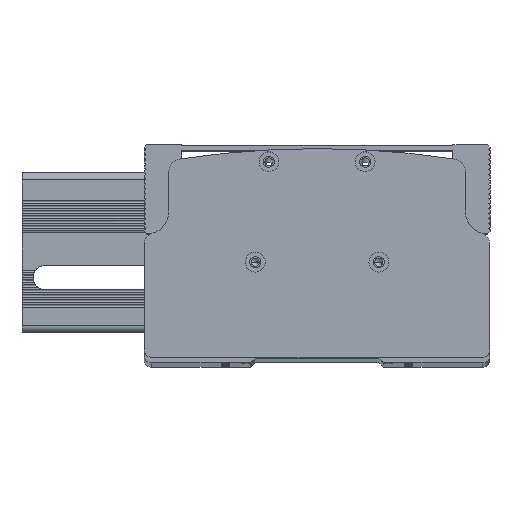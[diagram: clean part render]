
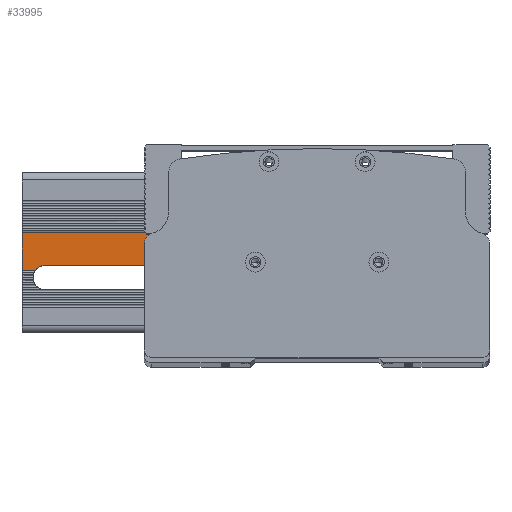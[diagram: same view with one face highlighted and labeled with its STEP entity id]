
A CAD part, top view. The second image highlights one B-rep face of the part: STEP entity #33995.
In plain terms, the highlighted planar face has unit normal (0, 0, 1) as drawn and (-1, 0, 0) by its records, which use the part's own axes.
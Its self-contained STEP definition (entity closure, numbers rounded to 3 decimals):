
#611 = CARTESIAN_POINT ( 'NONE',  ( 0., 0., 87. ) ) ;
#1808 = EDGE_CURVE ( 'NONE', #48000, #39176, #2839, .T. ) ;
#2117 = CARTESIAN_POINT ( 'NONE',  ( 0., 40.5, 0. ) ) ;
#2839 = CIRCLE ( 'NONE', #9409, 5. ) ;
#3187 = VECTOR ( 'NONE', #16591, 1000. ) ;
#3383 = AXIS2_PLACEMENT_3D ( 'NONE', #6001, #34263, #10147 ) ;
#3484 = DIRECTION ( 'NONE',  ( 0., 0., 1. ) ) ;
#3651 = ORIENTED_EDGE ( 'NONE', *, *, #3664, .T. ) ;
#3652 = DIRECTION ( 'NONE',  ( -1., 0., 0. ) ) ;
#3664 = EDGE_CURVE ( 'NONE', #5818, #43540, #16026, .T. ) ;
#3835 = CARTESIAN_POINT ( 'NONE',  ( 0., 22.5, 49.5 ) ) ;
#4082 = ORIENTED_EDGE ( 'NONE', *, *, #42370, .F. ) ;
#4792 = DIRECTION ( 'NONE',  ( 0., 0., 1. ) ) ;
#5818 = VERTEX_POINT ( 'NONE', #2117 ) ;
#5995 = VERTEX_POINT ( 'NONE', #51495 ) ;
#6001 = CARTESIAN_POINT ( 'NONE',  ( 0., 22.5, 9.5 ) ) ;
#6455 = VECTOR ( 'NONE', #15147, 1000. ) ;
#6537 = CARTESIAN_POINT ( 'NONE',  ( 0., 27.5, 49.5 ) ) ;
#8892 = CARTESIAN_POINT ( 'NONE',  ( 0., 25.5, 148. ) ) ;
#9409 = AXIS2_PLACEMENT_3D ( 'NONE', #3835, #3652, #3484 ) ;
#10147 = DIRECTION ( 'NONE',  ( 0., 0., 1. ) ) ;
#11799 = EDGE_CURVE ( 'NONE', #39176, #20066, #46141, .T. ) ;
#12256 = CARTESIAN_POINT ( 'NONE',  ( 0., 0., 87. ) ) ;
#12396 = DIRECTION ( 'NONE',  ( 0., 0., 1. ) ) ;
#12872 = VERTEX_POINT ( 'NONE', #15077 ) ;
#12982 = AXIS2_PLACEMENT_3D ( 'NONE', #611, #45136, #21022 ) ;
#15077 = CARTESIAN_POINT ( 'NONE',  ( 0., 25.5, 5.5 ) ) ;
#15147 = DIRECTION ( 'NONE',  ( 0., -1., 0. ) ) ;
#16026 = LINE ( 'NONE', #39262, #6455 ) ;
#16507 = VERTEX_POINT ( 'NONE', #22703 ) ;
#16591 = DIRECTION ( 'NONE',  ( 0., 0., -1. ) ) ;
#16653 = LINE ( 'NONE', #12256, #24809 ) ;
#19099 = ORIENTED_EDGE ( 'NONE', *, *, #51155, .T. ) ;
#20066 = VERTEX_POINT ( 'NONE', #24518 ) ;
#21022 = DIRECTION ( 'NONE',  ( 0., 0., -1. ) ) ;
#22703 = CARTESIAN_POINT ( 'NONE',  ( 0., 40.5, 87. ) ) ;
#24284 = ORIENTED_EDGE ( 'NONE', *, *, #1808, .F. ) ;
#24518 = CARTESIAN_POINT ( 'NONE',  ( 0., 27.5, 9.5 ) ) ;
#24521 = VECTOR ( 'NONE', #31355, 1000. ) ;
#24809 = VECTOR ( 'NONE', #40608, 1000. ) ;
#25069 = ORIENTED_EDGE ( 'NONE', *, *, #11799, .F. ) ;
#26297 = FACE_OUTER_BOUND ( 'NONE', #48901, .T. ) ;
#27339 = CARTESIAN_POINT ( 'NONE',  ( 0., 40.5, 148. ) ) ;
#28721 = CARTESIAN_POINT ( 'NONE',  ( 0., 27.5, 9.5 ) ) ;
#29824 = EDGE_CURVE ( 'NONE', #43540, #12872, #51191, .T. ) ;
#31355 = DIRECTION ( 'NONE',  ( 0., 0., -1. ) ) ;
#33995 = ADVANCED_FACE ( 'NONE', ( #26297 ), #41081, .F. ) ;
#34263 = DIRECTION ( 'NONE',  ( -1., 0., 0. ) ) ;
#34465 = CARTESIAN_POINT ( 'NONE',  ( 0., 25.5, 53.5 ) ) ;
#34873 = VECTOR ( 'NONE', #12396, 1000. ) ;
#38526 = ORIENTED_EDGE ( 'NONE', *, *, #48878, .T. ) ;
#39176 = VERTEX_POINT ( 'NONE', #6537 ) ;
#39262 = CARTESIAN_POINT ( 'NONE',  ( 0., 0., 0. ) ) ;
#40608 = DIRECTION ( 'NONE',  ( 0., -1., 0. ) ) ;
#41081 = PLANE ( 'NONE',  #12982 ) ;
#41125 = EDGE_CURVE ( 'NONE', #16507, #5995, #16653, .T. ) ;
#42370 = EDGE_CURVE ( 'NONE', #20066, #12872, #44201, .T. ) ;
#43540 = VERTEX_POINT ( 'NONE', #43691 ) ;
#43691 = CARTESIAN_POINT ( 'NONE',  ( 0., 25.5, 0. ) ) ;
#44201 = CIRCLE ( 'NONE', #3383, 5. ) ;
#44434 = CARTESIAN_POINT ( 'NONE',  ( 0., 25.5, 148. ) ) ;
#45136 = DIRECTION ( 'NONE',  ( 1., 0., 0. ) ) ;
#45600 = LINE ( 'NONE', #44434, #34873 ) ;
#46141 = LINE ( 'NONE', #28721, #3187 ) ;
#47206 = LINE ( 'NONE', #27339, #24521 ) ;
#47264 = ORIENTED_EDGE ( 'NONE', *, *, #41125, .F. ) ;
#47765 = ORIENTED_EDGE ( 'NONE', *, *, #29824, .T. ) ;
#48000 = VERTEX_POINT ( 'NONE', #34465 ) ;
#48684 = VECTOR ( 'NONE', #4792, 1000. ) ;
#48878 = EDGE_CURVE ( 'NONE', #48000, #5995, #45600, .T. ) ;
#48901 = EDGE_LOOP ( 'NONE', ( #4082, #25069, #24284, #38526, #47264, #19099, #3651, #47765 ) ) ;
#51155 = EDGE_CURVE ( 'NONE', #16507, #5818, #47206, .T. ) ;
#51191 = LINE ( 'NONE', #8892, #48684 ) ;
#51495 = CARTESIAN_POINT ( 'NONE',  ( 0., 25.5, 87. ) ) ;
